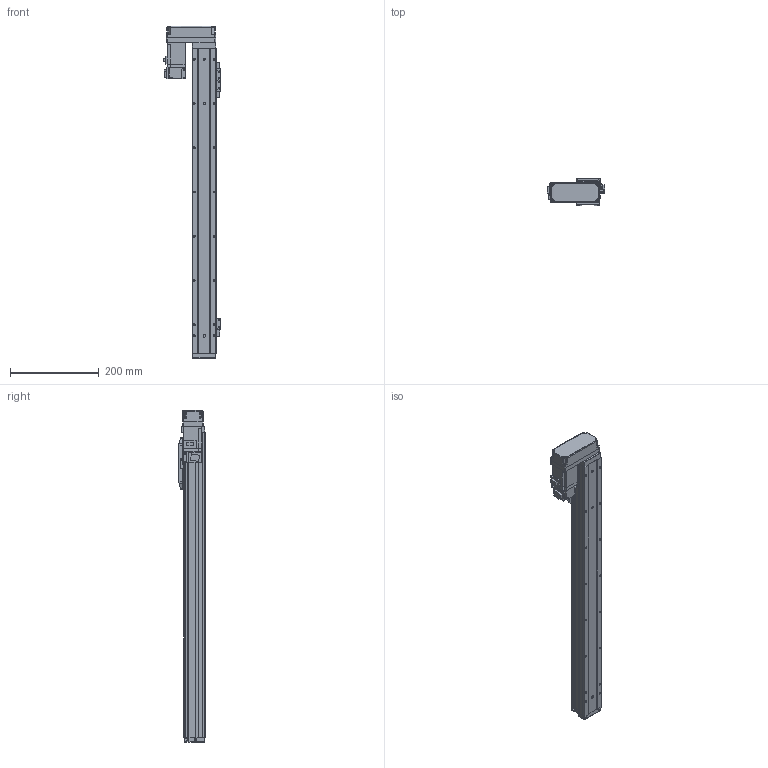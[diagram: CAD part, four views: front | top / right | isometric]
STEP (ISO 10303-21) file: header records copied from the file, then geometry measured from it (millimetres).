
FILE_DESCRIPTION (( 'STEP AP214' ), '1' );
FILE_NAME ('N_GRH5-550-BR-M10.step', '2025-03-14T10:58:13', ( '' ), ( '' ), 'SwSTEP 2.0', 'SolidWorks 2016', '' );
FILE_SCHEMA (( 'AUTOMOTIVE_DESIGN' ));
Length unit declared in the file: millimetre
Products named in the file (5): N_GRH5-GY-004^N_GRH5-550-BR-M10; N_GRH5-550-BR-M10; N_GRH5-GY-011^N_GRH5-550-BR-M10; N_GRH5-BL-008^N_GRH5-550-BR-M10; HF-KP13_100W_Motor^N_GRH5-550-BR-M10
Assembly tree (4 placements, depth 2):
  N_GRH5-550-BR-M10
    N_GRH5-GY-011^N_GRH5-550-BR-M10
    N_GRH5-GY-004^N_GRH5-550-BR-M10
    HF-KP13_100W_Motor^N_GRH5-550-BR-M10
    N_GRH5-BL-008^N_GRH5-550-BR-M10
Bounding box: 128.85 x 60 x 750 mm (x, y, z)
Volume: 1446575.9 mm3; surface area: 364764.2 mm2
Topology: 4 solids, 5 shells, 964 faces, 2456 edges, 1557 vertices
Faces by surface type: plane 553, cylinder 336, cone 50, bspline 15, sphere 10
Entity records: 36643 total; most frequent: CARTESIAN_POINT 5743, DIRECTION 4985, ORIENTED_EDGE 4848, EDGE_CURVE 2424, AXIS2_PLACEMENT_3D 1663, VECTOR 1659, LINE 1659, VERTEX_POINT 1555
